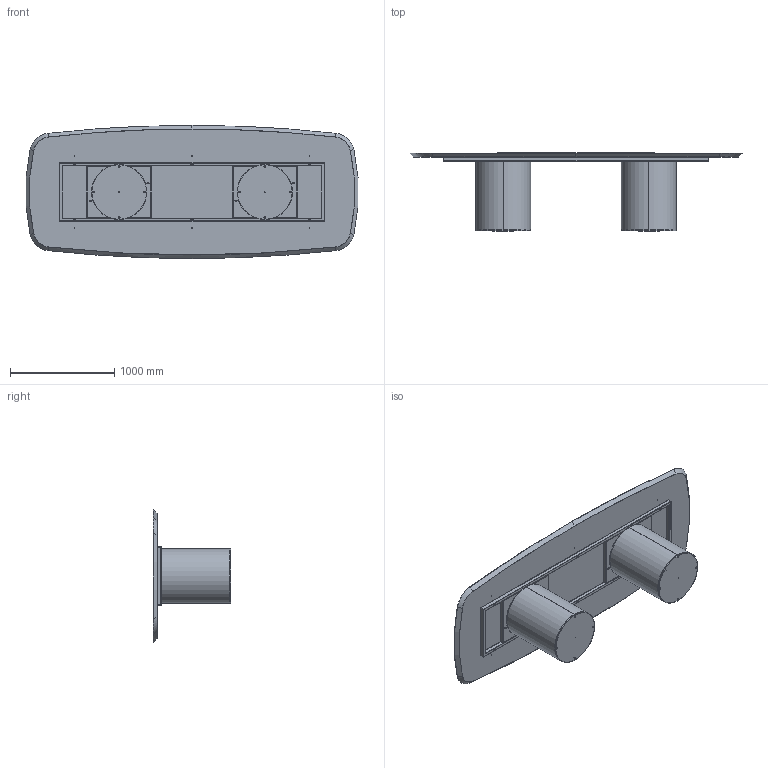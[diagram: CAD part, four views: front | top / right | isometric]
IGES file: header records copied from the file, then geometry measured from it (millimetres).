
Start section: SolidWorks IGES file using analytic representation for surfaces
Global section: file name: Y:\eforma\TECNICO\SOLIDWORKS\E-FORMA\1-TAVOLI\CILINDRO\02 parts\CI45W.IGS; native system: SolidWorks 2022; preprocessor: SolidWorks 2022; author: eforma.tech; date: 240808.091328; units: millimetre
Bounding box: 3190.14 x 748 x 1280 mm (x, y, z)
Volume: 154299920.1 mm3; surface area: 16828361.6 mm2
Topology: 34 solids, 34 shells, 1227 faces, 2816 edges, 1597 vertices
Faces by surface type: revolution 721, plane 506
